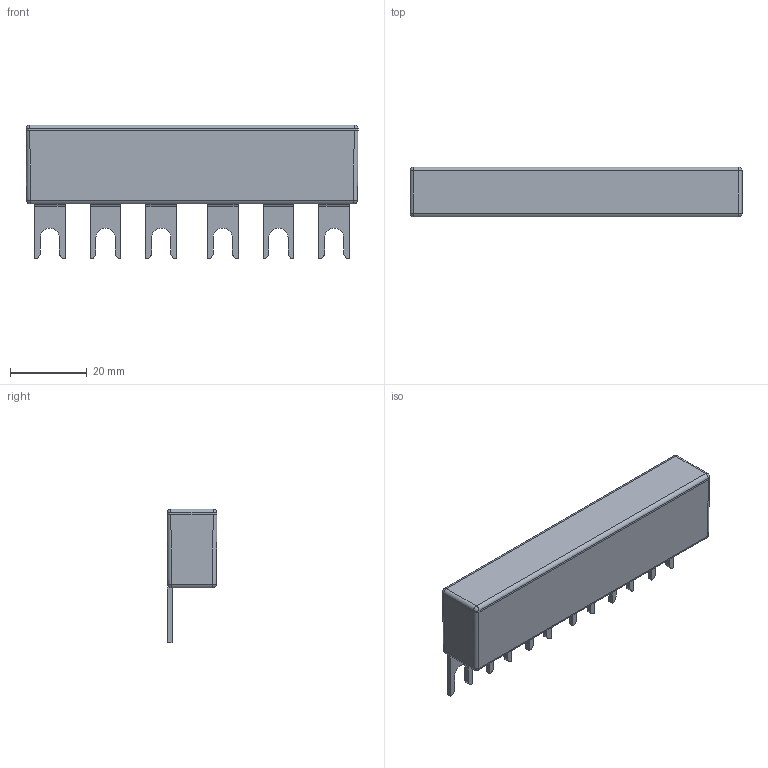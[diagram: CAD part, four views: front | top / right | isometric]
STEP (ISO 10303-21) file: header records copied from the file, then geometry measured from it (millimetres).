
FILE_DESCRIPTION((''),'2;1');
FILE_NAME('45-2_FINAL_ASSY_ASM','2023-07-17T12:50:32',('design1'),(''),'CREO PARAMETRIC BY PTC INC, 2022284','CREO PARAMETRIC BY PTC INC, 2022284','');
FILE_SCHEMA(('CONFIG_CONTROL_DESIGN'));
Length unit declared in the file: millimetre
Products named in the file (6): HOUSING_45MM_2WAY; FC3_45MM_2WAY; FC2_45MM_2WAY; FC1_45MM_2WAY; TOP_COVER_45MM; 45-2_FINAL_ASSY_ASM
Assembly tree (5 placements, depth 2):
  45-2_FINAL_ASSY_ASM
    HOUSING_45MM_2WAY
    FC3_45MM_2WAY
    FC2_45MM_2WAY
    FC1_45MM_2WAY
    TOP_COVER_45MM
Bounding box: 86.4 x 13 x 34.8 mm (x, y, z)
Volume: 15013.8 mm3; surface area: 24911.4 mm2
Topology: 5 solids, 5 shells, 426 faces, 1195 edges, 773 vertices
Faces by surface type: plane 315, cylinder 87, cone 12, sphere 8, torus 4
Entity records: 13765 total; most frequent: CARTESIAN_POINT 2527, ORIENTED_EDGE 2390, DIRECTION 2247, EDGE_CURVE 1195, VECTOR 939, LINE 939, VERTEX_POINT 773, AXIS2_PLACEMENT_3D 654
